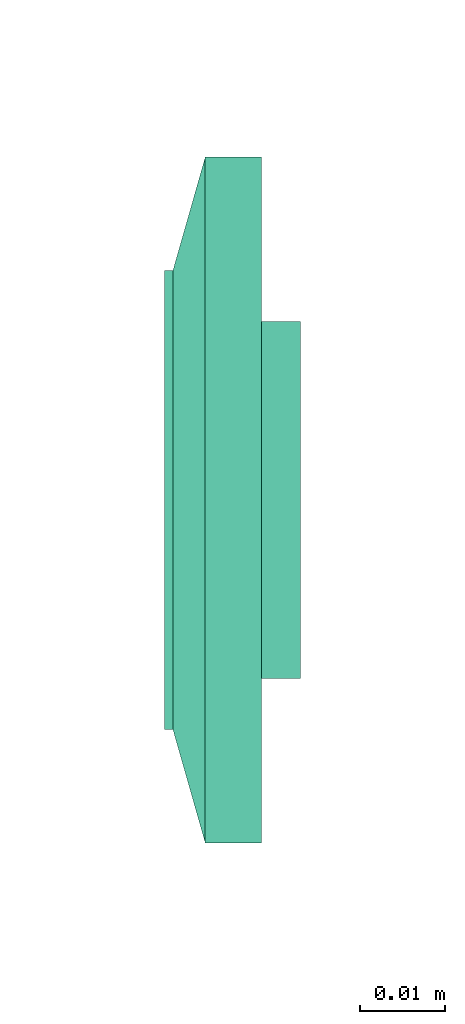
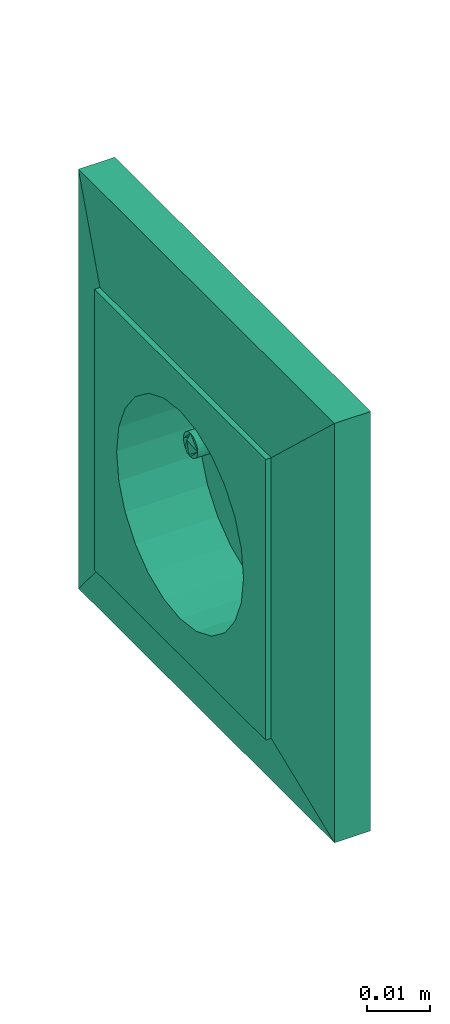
# One storey, part 143 of 153: 1 flow terminal.
"""IFC2X3 building model written with IfcOpenShell, lengths in metres."""

from ifc_helpers import new_model, entity, si_unit, converted_unit, derived_unit, direction, frame, origin, place, context, subcontext, project, spatial, face_set, surface_model, source, transform, mapped, type_object, type_shapes, element, save


model = new_model("IFC2X3")

# Units and contexts
model_context = context("Model", 3, precision=1e-05, world=origin(), true_north=direction((6.12303176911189e-17, 1.0)))
body_context = subcontext(model_context, "Body", "Model", "MODEL_VIEW")
ifc_project = project(units=[si_unit("LENGTHUNIT", "METRE"), si_unit("AREAUNIT", "SQUARE_METRE"), si_unit("VOLUMEUNIT", "CUBIC_METRE"), converted_unit("PLANEANGLEUNIT", "DEGREE", entity("IfcRatioMeasure", 0.0174532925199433), si_unit("PLANEANGLEUNIT", "RADIAN"), dimensions=[0, 0, 0, 0, 0, 0, 0]), si_unit("MASSUNIT", "GRAM", prefix="KILO"), derived_unit("MASSDENSITYUNIT", [(si_unit("MASSUNIT", "GRAM", prefix="KILO"), 1), (si_unit("LENGTHUNIT", "METRE"), -3)]), si_unit("TIMEUNIT", "SECOND"), si_unit("FREQUENCYUNIT", "HERTZ"), si_unit("THERMODYNAMICTEMPERATUREUNIT", "DEGREE_CELSIUS"), derived_unit("THERMALTRANSMITTANCEUNIT", [(si_unit("MASSUNIT", "GRAM", prefix="KILO"), 1), (si_unit("THERMODYNAMICTEMPERATUREUNIT", "KELVIN"), -1), (si_unit("TIMEUNIT", "SECOND"), -3)]), derived_unit("VOLUMETRICFLOWRATEUNIT", [(si_unit("LENGTHUNIT", "METRE"), 3), (si_unit("TIMEUNIT", "SECOND"), -1)]), si_unit("ELECTRICCURRENTUNIT", "AMPERE"), si_unit("ELECTRICVOLTAGEUNIT", "VOLT"), si_unit("POWERUNIT", "WATT"), si_unit("FORCEUNIT", "NEWTON"), si_unit("ILLUMINANCEUNIT", "LUX"), si_unit("LUMINOUSFLUXUNIT", "LUMEN"), si_unit("LUMINOUSINTENSITYUNIT", "CANDELA"), derived_unit("USERDEFINED", [(si_unit("MASSUNIT", "GRAM", prefix="KILO"), -1), (si_unit("LENGTHUNIT", "METRE"), -2), (si_unit("TIMEUNIT", "SECOND"), 3), (si_unit("LUMINOUSFLUXUNIT", "LUMEN"), 1)]), derived_unit("LINEARVELOCITYUNIT", [(si_unit("LENGTHUNIT", "METRE"), 1), (si_unit("TIMEUNIT", "SECOND"), -1)]), si_unit("PRESSUREUNIT", "PASCAL"), derived_unit("USERDEFINED", [(si_unit("LENGTHUNIT", "METRE"), -2), (si_unit("MASSUNIT", "GRAM", prefix="KILO"), 1), (si_unit("TIMEUNIT", "SECOND"), -2)])], contexts=[model_context])

# Site, building, storey
site_placement = place(None, origin())
site = spatial("IfcSite", under=ifc_project, at=site_placement, Name="Default", CompositionType="ELEMENT")
building_placement = place(site_placement, origin())
building = spatial("IfcBuilding", under=site, at=building_placement, CompositionType="ELEMENT")
storey_placement = place(building_placement, frame((0.0, 0.0, -4.62)))
storey = spatial("IfcBuildingStorey", under=building, at=storey_placement, Name="S02", CompositionType="ELEMENT", Elevation=-4.62)

# Flow terminal
light_fixture_type = type_object("IfcLightFixtureType", Name="PC IP44", PredefinedType="NOTDEFINED")
shared_shape = source(origin(), body_context, "Body", "SurfaceModel", [
    surface_model("IfcFaceBasedSurfaceModel", [(-0.00225000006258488, 0.0127499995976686, 0.00949633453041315), (0.0, 0.0104999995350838, 0.00949633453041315), (0.0, 0.0115376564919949, 0.0101656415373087), (0.0, 0.0139623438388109, 0.0101656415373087), (0.0, 0.0144589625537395, 0.00984531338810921), (0.0, 0.0121178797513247, 0.0102778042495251), (0.0, 0.0133821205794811, 0.0102778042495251), (0.0, 0.0127499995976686, 0.010399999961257), (0.0, 0.0149999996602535, 0.00949633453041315), (0.00225000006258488, 0.0127499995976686, 0.00949633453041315), (0.0, 0.0110410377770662, 0.00984531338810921), (0.0, 0.0127499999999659, 0.00949633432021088), (0.00225000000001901, 0.0127499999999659, 0.00949633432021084), (0.00217333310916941, 0.0121676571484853, 0.00949633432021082), (0.00194855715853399, 0.0116249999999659, 0.00949633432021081), (0.00159099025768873, 0.0111590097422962, 0.00949633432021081), (0.001125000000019, 0.010801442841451, 0.00949633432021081), (0.00058234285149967, 0.0105766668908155, 0.00949633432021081), (0.0, 0.0104999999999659, 0.00949633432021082), (-0.000582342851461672, 0.0105766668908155, 0.00949633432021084), (-0.001124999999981, 0.010801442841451, 0.00949633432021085), (-0.00159099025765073, 0.0111590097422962, 0.00949633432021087), (-0.00194855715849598, 0.011624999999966, 0.00949633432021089), (-0.0021733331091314, 0.0121676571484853, 0.00949633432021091), (-0.00224999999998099, 0.012749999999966, 0.00949633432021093), (-0.00217333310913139, 0.0133323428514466, 0.00949633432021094), (-0.00194855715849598, 0.013874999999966, 0.00949633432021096), (-0.00159099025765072, 0.0143409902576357, 0.00949633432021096), (-0.00112499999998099, 0.0146985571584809, 0.00949633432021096), (-0.00058234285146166, 0.0149233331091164, 0.00949633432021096), (0.0, 0.0149999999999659, 0.00949633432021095), (0.000582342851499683, 0.0149233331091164, 0.00949633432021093), (0.00112500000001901, 0.0146985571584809, 0.00949633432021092), (0.00159099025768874, 0.0143409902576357, 0.00949633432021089), (0.001948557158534, 0.0138749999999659, 0.00949633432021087), (0.00217333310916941, 0.0133323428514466, 0.00949633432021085), (0.00225000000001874, 0.0127499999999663, -0.00360000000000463), (0.00217333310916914, 0.0121676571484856, -0.00360000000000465), (0.00194855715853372, 0.0116249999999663, -0.00360000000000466), (0.00159099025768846, 0.0111590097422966, -0.00360000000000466), (0.00112500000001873, 0.0108014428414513, -0.00360000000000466), (0.000582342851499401, 0.0105766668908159, -0.00360000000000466), (0.0, 0.0104999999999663, -0.00360000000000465), (-0.000582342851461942, 0.0105766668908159, -0.00360000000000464), (-0.00112499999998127, 0.0108014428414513, -0.00360000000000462), (-0.001590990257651, 0.0111590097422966, -0.0036000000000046), (-0.00194855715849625, 0.0116249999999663, -0.00360000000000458), (-0.00217333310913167, 0.0121676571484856, -0.00360000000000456), (-0.00224999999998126, 0.0127499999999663, -0.00360000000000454), (-0.00217333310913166, 0.013332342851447, -0.00360000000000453), (-0.00194855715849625, 0.0138749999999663, -0.00360000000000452), (-0.00159099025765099, 0.014340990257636, -0.00360000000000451), (-0.00112499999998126, 0.0146985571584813, -0.00360000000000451), (-0.000582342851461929, 0.0149233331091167, -0.00360000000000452), (0.0, 0.0149999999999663, -0.00360000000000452), (0.000582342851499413, 0.0149233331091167, -0.00360000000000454), (0.00112500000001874, 0.0146985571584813, -0.00360000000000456), (0.00159099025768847, 0.014340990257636, -0.00360000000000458), (0.00194855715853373, 0.0138749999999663, -0.0036000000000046), (0.00217333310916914, 0.013332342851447, -0.00360000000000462), (0.0270000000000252, 0.026999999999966, 0.0113999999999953), (-0.0269999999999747, 0.026999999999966, 0.0113999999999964), (-0.0269999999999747, -0.0270000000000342, 0.0113999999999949), (0.0270000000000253, -0.0270000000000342, 0.0113999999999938), (-0.0199999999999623, 0.0, 0.0113999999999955), (-0.0193185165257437, -0.00517638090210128, 0.0113999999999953), (-0.0173205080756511, -0.0100000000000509, 0.0113999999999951), (-0.0141421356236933, -0.0141421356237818, 0.011399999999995), (-0.00999999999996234, -0.0173205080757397, 0.0113999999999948), (-0.00517638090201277, -0.0193185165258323, 0.0113999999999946), (0.0, -0.0200000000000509, 0.0113999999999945), (0.00517638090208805, -0.0193185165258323, 0.0113999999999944), (0.0100000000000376, -0.0173205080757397, 0.0113999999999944), (0.0141421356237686, -0.0141421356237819, 0.0113999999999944), (0.0173205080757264, -0.010000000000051, 0.0113999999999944), (0.0193185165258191, -0.00517638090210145, 0.0113999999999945), (0.0200000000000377, 0.0, 0.0113999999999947), (0.0193185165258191, 0.00517638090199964, 0.0113999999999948), (0.0173205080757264, 0.0099999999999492, 0.011399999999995), (0.0141421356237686, 0.0141421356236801, 0.0113999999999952), (0.0100000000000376, 0.0173205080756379, 0.0113999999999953), (0.00517638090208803, 0.0193185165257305, 0.0113999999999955), (0.0, 0.0199999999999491, 0.0113999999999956), (-0.00517638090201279, 0.0193185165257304, 0.0113999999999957), (-0.00999999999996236, 0.0173205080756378, 0.0113999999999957), (-0.0141421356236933, 0.01414213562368, 0.0113999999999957), (-0.0173205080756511, 0.00999999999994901, 0.0113999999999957), (-0.0193185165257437, 0.00517638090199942, 0.0113999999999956), (0.0270000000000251, 0.0269999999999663, 0.00199999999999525), (0.0270000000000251, -0.0270000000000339, 0.00199999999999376), (-0.0269999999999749, -0.0270000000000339, 0.00199999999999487), (-0.0269999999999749, 0.0269999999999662, 0.00199999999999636), (0.0210000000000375, 0.0, 0.00199999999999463), (0.0202844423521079, -0.00543519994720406, 0.00199999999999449), (0.0181865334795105, -0.0105000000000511, 0.0019999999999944), (0.0148492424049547, -0.0148492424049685, 0.00199999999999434), (0.0105000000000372, -0.0181865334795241, 0.00199999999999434), (0.0054351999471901, -0.0202844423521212, 0.00199999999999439), (0.0, -0.0210000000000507, 0.00199999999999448), (-0.00543519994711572, -0.020284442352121, 0.00199999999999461), (-0.0104999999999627, -0.0181865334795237, 0.00199999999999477), (-0.0148492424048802, -0.014849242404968, 0.00199999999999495), (-0.0181865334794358, -0.0105000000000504, 0.00199999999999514), (-0.020284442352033, -0.00543519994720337, 0.00199999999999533), (-0.0209999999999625, 0.0, 0.00199999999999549), (-0.0202844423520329, 0.0054351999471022, 0.00199999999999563), (-0.0181865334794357, 0.0104999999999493, 0.00199999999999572), (-0.01484924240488, 0.0148492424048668, 0.00199999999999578), (-0.0104999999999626, 0.0181865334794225, 0.00199999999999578), (-0.00543519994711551, 0.0202844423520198, 0.00199999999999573), (0.0, 0.0209999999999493, 0.00199999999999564), (0.00543519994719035, 0.0202844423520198, 0.00199999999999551), (0.0105000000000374, 0.0181865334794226, 0.00199999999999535), (0.0148492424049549, 0.0148492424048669, 0.00199999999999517), (0.0181865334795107, 0.0104999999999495, 0.00199999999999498), (0.0202844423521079, 0.00543519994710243, 0.00199999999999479), (0.0200000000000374, 0.0, -0.00360000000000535), (0.0193185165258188, -0.00517638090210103, -0.00360000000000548), (0.0173205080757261, -0.0100000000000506, -0.00360000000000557), (0.0141421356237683, -0.0141421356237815, -0.00360000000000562), (0.0100000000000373, -0.0173205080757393, -0.00360000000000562), (0.00517638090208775, -0.0193185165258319, -0.00360000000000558), (0.0, -0.0200000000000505, -0.00360000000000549), (-0.00517638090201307, -0.0193185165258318, -0.00360000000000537), (-0.00999999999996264, -0.0173205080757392, -0.00360000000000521), (-0.0141421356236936, -0.0141421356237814, -0.00360000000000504), (-0.0173205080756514, -0.0100000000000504, -0.00360000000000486), (-0.019318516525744, -0.00517638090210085, -0.00360000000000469), (-0.0199999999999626, 0.0, -0.00360000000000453), (-0.0193185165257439, 0.00517638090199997, -0.0036000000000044), (-0.0173205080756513, 0.00999999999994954, -0.00360000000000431), (-0.0141421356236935, 0.0141421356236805, -0.00360000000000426), (-0.00999999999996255, 0.0173205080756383, -0.00360000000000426), (-0.00517638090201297, 0.0193185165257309, -0.0036000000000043), (0.0, 0.0199999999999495, -0.00360000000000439), (0.00517638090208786, 0.0193185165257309, -0.00360000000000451), (0.0100000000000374, 0.0173205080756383, -0.00360000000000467), (0.0141421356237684, 0.0141421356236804, -0.00360000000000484), (0.0173205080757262, 0.0099999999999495, -0.00360000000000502), (0.0193185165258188, 0.00517638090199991, -0.00360000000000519), (-0.0123499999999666, 0.0, -0.00360000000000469), (-0.0122562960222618, -0.000711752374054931, -0.00360000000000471), (-0.0119815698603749, -0.00137500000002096, -0.00360000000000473), (-0.0115445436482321, -0.00194454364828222, -0.00360000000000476), (-0.0109749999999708, -0.00238156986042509, -0.00360000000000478), (-0.0103117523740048, -0.00265629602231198, -0.0036000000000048), (-0.00959999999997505, -0.00275000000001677, -0.00360000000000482), (-0.0088882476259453, -0.00265629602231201, -0.00360000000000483), (-0.00822499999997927, -0.00238156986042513, -0.00360000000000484), (-0.00765545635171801, -0.00194454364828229, -0.00360000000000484), (-0.00721843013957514, -0.00137500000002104, -0.00360000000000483), (-0.00694370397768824, -0.000711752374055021, -0.00360000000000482), (-0.00684999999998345, 0.0, -0.0036000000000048), (-0.00694370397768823, 0.000711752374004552, -0.00360000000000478), (-0.00721843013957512, 0.00137499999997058, -0.00360000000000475), (-0.00765545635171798, 0.00194454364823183, -0.00360000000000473), (-0.00822499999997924, 0.00238156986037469, -0.0036000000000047), (-0.00888824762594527, 0.00265629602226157, -0.00360000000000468), (-0.00959999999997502, 0.00274999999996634, -0.00360000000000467), (-0.0103117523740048, 0.00265629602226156, -0.00360000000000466), (-0.0109749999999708, 0.00238156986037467, -0.00360000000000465), (-0.011544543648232, 0.00194454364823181, -0.00360000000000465), (-0.0119815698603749, 0.00137499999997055, -0.00360000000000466), (-0.0122562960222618, 0.000711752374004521, -0.00360000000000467), (0.00685000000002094, 0.0, -0.00360000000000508), (0.0069437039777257, -0.00071175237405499, -0.0036000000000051), (0.00721843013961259, -0.00137500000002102, -0.00360000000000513), (0.00765545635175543, -0.00194454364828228, -0.00360000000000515), (0.00822500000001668, -0.00238156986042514, -0.00360000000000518), (0.00888824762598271, -0.00265629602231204, -0.0036000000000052), (0.00960000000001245, -0.00275000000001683, -0.00360000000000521), (0.0103117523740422, -0.00265629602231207, -0.00360000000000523), (0.0109750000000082, -0.00238156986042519, -0.00360000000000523), (0.0115445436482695, -0.00194454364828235, -0.00360000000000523), (0.0119815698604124, -0.0013750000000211, -0.00360000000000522), (0.0122562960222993, -0.00071175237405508, -0.00360000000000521), (0.012350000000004, 0.0, -0.00360000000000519), (0.0122562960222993, 0.000711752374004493, -0.00360000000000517), (0.0119815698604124, 0.00137499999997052, -0.00360000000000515), (0.0115445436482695, 0.00194454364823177, -0.00360000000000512), (0.0109750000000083, 0.00238156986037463, -0.0036000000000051), (0.0103117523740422, 0.00265629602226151, -0.00360000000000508), (0.00960000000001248, 0.00274999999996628, -0.00360000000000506), (0.00888824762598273, 0.0026562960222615, -0.00360000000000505), (0.0082250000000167, 0.00238156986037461, -0.00360000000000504), (0.00765545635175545, 0.00194454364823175, -0.00360000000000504), (0.0072184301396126, 0.00137499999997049, -0.00360000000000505), (0.00694370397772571, 0.000711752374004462, -0.00360000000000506), (0.0210000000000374, 0.0, -0.00460000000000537), (0.0202844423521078, -0.00543519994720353, -0.00460000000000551), (0.0181865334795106, -0.0105000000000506, -0.0046000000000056), (0.0148492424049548, -0.0148492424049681, -0.00460000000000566), (0.0105000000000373, -0.0181865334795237, -0.00460000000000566), (0.00543519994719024, -0.0202844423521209, -0.00460000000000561), (0.0, -0.0210000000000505, -0.00460000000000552), (-0.00543519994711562, -0.0202844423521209, -0.00460000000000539), (-0.0104999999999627, -0.0181865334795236, -0.00460000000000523), (-0.0148492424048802, -0.0148492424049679, -0.00460000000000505), (-0.0181865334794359, -0.0105000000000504, -0.00460000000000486), (-0.0202844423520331, -0.00543519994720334, -0.00460000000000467), (-0.0209999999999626, 0.0, -0.00460000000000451), (-0.020284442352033, 0.00543519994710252, -0.00460000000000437), (-0.0181865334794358, 0.0104999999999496, -0.00460000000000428), (-0.0148492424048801, 0.0148492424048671, -0.00460000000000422), (-0.0104999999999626, 0.0181865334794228, -0.00460000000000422), (-0.00543519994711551, 0.02028444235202, -0.00460000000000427), (0.0, 0.0209999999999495, -0.00460000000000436), (0.00543519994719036, 0.02028444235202, -0.00460000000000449), (0.0105000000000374, 0.0181865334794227, -0.00460000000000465), (0.0148492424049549, 0.014849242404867, -0.00460000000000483), (0.0181865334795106, 0.0104999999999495, -0.00460000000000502), (0.0202844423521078, 0.00543519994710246, -0.00460000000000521), (-0.00684999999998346, 0.0, -0.0046000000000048), (-0.00694370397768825, 0.000711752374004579, -0.00460000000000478), (-0.00721843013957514, 0.00137499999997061, -0.00460000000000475), (-0.007655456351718, 0.00194454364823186, -0.00460000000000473), (-0.00822499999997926, 0.00238156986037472, -0.0046000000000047), (-0.00888824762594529, 0.0026562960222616, -0.00460000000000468), (-0.00959999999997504, 0.00274999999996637, -0.00460000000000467), (-0.0103117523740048, 0.00265629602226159, -0.00460000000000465), (-0.0109749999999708, 0.0023815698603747, -0.00460000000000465), (-0.0115445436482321, 0.00194454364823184, -0.00460000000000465), (-0.0119815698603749, 0.00137499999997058, -0.00460000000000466), (-0.0122562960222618, 0.000711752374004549, -0.00460000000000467), (-0.0123499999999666, 0.0, -0.00460000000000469), (-0.0122562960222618, -0.000711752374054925, -0.00460000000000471), (-0.0119815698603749, -0.00137500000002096, -0.00460000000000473), (-0.0115445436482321, -0.00194454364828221, -0.00460000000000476), (-0.0109749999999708, -0.00238156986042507, -0.00460000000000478), (-0.0103117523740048, -0.00265629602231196, -0.0046000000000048), (-0.00959999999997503, -0.00275000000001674, -0.00460000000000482), (-0.00888824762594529, -0.00265629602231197, -0.00460000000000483), (-0.00822499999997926, -0.00238156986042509, -0.00460000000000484), (-0.007655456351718, -0.00194454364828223, -0.00460000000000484), (-0.00721843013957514, -0.00137500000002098, -0.00460000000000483), (-0.00694370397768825, -0.000711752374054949, -0.00460000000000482), (0.012350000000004, 0.0, -0.00460000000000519), (0.0122562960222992, 0.000711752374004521, -0.00460000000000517), (0.0119815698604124, 0.00137499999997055, -0.00460000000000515), (0.0115445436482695, 0.0019445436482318, -0.00460000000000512), (0.0109750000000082, 0.00238156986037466, -0.0046000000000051), (0.0103117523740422, 0.00265629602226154, -0.00460000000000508), (0.00960000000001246, 0.00274999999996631, -0.00460000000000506), (0.00888824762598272, 0.00265629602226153, -0.00460000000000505), (0.00822500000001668, 0.00238156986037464, -0.00460000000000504), (0.00765545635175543, 0.00194454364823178, -0.00460000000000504), (0.00721843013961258, 0.00137499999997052, -0.00460000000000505), (0.00694370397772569, 0.00071175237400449, -0.00460000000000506), (0.00685000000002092, 0.0, -0.00460000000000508), (0.00694370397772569, -0.000711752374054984, -0.0046000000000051), (0.00721843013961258, -0.00137500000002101, -0.00460000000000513), (0.00765545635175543, -0.00194454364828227, -0.00460000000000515), (0.00822500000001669, -0.00238156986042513, -0.00460000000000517), (0.00888824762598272, -0.00265629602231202, -0.0046000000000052), (0.00960000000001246, -0.0027500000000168, -0.00460000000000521), (0.0103117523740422, -0.00265629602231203, -0.00460000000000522), (0.0109750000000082, -0.00238156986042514, -0.00460000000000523), (0.0115445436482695, -0.00194454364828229, -0.00460000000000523), (0.0119815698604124, -0.00137500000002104, -0.00460000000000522), (0.0122562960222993, -0.000711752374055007, -0.00460000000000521), (0.040350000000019, 0.0403499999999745, 0.00659999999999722), (0.040350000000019, -0.0403500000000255, 0.00659999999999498), (-0.0403499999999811, -0.0403500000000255, 0.00659999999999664), (-0.0403499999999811, 0.0403499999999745, 0.00659999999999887), (0.027000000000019, 0.0269999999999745, 0.00659999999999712), (-0.0269999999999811, 0.0269999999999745, 0.00659999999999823), (-0.026999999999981, -0.0270000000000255, 0.00659999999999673), (0.027000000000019, -0.0270000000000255, 0.00659999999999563), (0.027000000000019, 0.0269999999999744, 0.0103999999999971), (-0.026999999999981, 0.0269999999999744, 0.0103999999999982), (-0.026999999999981, -0.0270000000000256, 0.0103999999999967), (0.027000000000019, -0.0270000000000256, 0.0103999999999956), (0.040350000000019, 0.0403499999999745, 0.00659999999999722), (0.040350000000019, -0.0403500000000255, 0.00659999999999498), (-0.0403499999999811, -0.0403500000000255, 0.00659999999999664), (-0.0403499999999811, 0.0403499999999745, 0.00659999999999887), (-0.0269999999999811, 0.0269999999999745, 0.00659999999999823), (-0.0269999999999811, -0.0270000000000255, 0.00659999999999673), (0.0270000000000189, -0.0270000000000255, 0.00659999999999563), (0.0270000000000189, 0.0269999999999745, 0.00659999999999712), (0.0403500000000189, 0.0403499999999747, 0.0), (0.0403500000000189, -0.0403500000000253, 0.0), (-0.0403499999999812, -0.0403500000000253, 0.0), (-0.0403499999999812, 0.0403499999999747, 0.0), (0.0270000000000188, 0.0269999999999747, 0.0), (-0.0269999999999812, 0.0269999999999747, 0.0), (-0.0269999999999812, -0.0270000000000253, 0.0), (0.0270000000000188, -0.0270000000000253, 0.0)], [face_set([[[0, 1, 2]], [[3, 4, 2, 5]], [[6, 3, 5, 7]], [[2, 4, 0]], [[4, 8, 0]], [[3, 9, 8]], [[1, 9, 10]], [[2, 3, 6, 7]], [[3, 10, 9]], [[2, 10, 3]], [[11, 1, 0, 8]], [[11, 8, 9, 1]]]), face_set([[[12, 13, 14, 15, 16, 17, 18, 19, 20, 21, 22, 23, 24, 25, 26, 27, 28, 29, 30, 31, 32, 33, 34, 35]], [[36, 37, 38, 39, 40, 41, 42, 43, 44, 45, 46, 47, 48, 49, 50, 51, 52, 53, 54, 55, 56, 57, 58, 59]], [[48, 47, 23, 24]], [[47, 46, 22, 23]], [[45, 44, 20, 21]], [[46, 45, 21, 22]], [[44, 43, 19, 20]], [[18, 19, 43, 42]], [[42, 41, 17, 18]], [[41, 40, 16, 17]], [[39, 38, 14, 15]], [[40, 39, 15, 16]], [[38, 37, 13, 14]], [[12, 13, 37, 36]], [[36, 59, 35, 12]], [[59, 58, 34, 35]], [[57, 56, 32, 33]], [[58, 57, 33, 34]], [[56, 55, 31, 32]], [[30, 31, 55, 54]], [[54, 53, 29, 30]], [[53, 52, 28, 29]], [[51, 50, 26, 27]], [[52, 51, 27, 28]], [[50, 49, 25, 26]], [[24, 25, 49, 48]]]), face_set([[[60, 61, 62, 63], [64, 65, 66, 67, 68, 69, 70, 71, 72, 73, 74, 75, 76, 77, 78, 79, 80, 81, 82, 83, 84, 85, 86, 87]], [[88, 89, 90, 91], [92, 93, 94, 95, 96, 97, 98, 99, 100, 101, 102, 103, 104, 105, 106, 107, 108, 109, 110, 111, 112, 113, 114, 115]], [[61, 60, 88, 91]], [[62, 61, 91, 90]], [[63, 62, 90, 89]], [[60, 63, 89, 88]], [[116, 117, 118, 119, 120, 121, 122, 123, 124, 125, 126, 127, 128, 129, 130, 131, 132, 133, 134, 135, 136, 137, 138, 139], [140, 141, 142, 143, 144, 145, 146, 147, 148, 149, 150, 151, 152, 153, 154, 155, 156, 157, 158, 159, 160, 161, 162, 163], [164, 165, 166, 167, 168, 169, 170, 171, 172, 173, 174, 175, 176, 177, 178, 179, 180, 181, 182, 183, 184, 185, 186, 187]], [[64, 128, 127, 65]], [[65, 127, 126, 66]], [[67, 125, 124, 68]], [[66, 126, 125, 67]], [[68, 124, 123, 69]], [[122, 70, 69, 123]], [[70, 122, 121, 71]], [[71, 121, 120, 72]], [[73, 119, 118, 74]], [[72, 120, 119, 73]], [[74, 118, 117, 75]], [[116, 76, 75, 117]], [[76, 116, 139, 77]], [[77, 139, 138, 78]], [[79, 137, 136, 80]], [[78, 138, 137, 79]], [[80, 136, 135, 81]], [[134, 82, 81, 135]], [[82, 134, 133, 83]], [[83, 133, 132, 84]], [[84, 132, 131, 85]], [[85, 131, 130, 86]], [[130, 129, 87, 86]], [[64, 87, 129, 128]], [[188, 189, 190, 191, 192, 193, 194, 195, 196, 197, 198, 199, 200, 201, 202, 203, 204, 205, 206, 207, 208, 209, 210, 211], [212, 213, 214, 215, 216, 217, 218, 219, 220, 221, 222, 223, 224, 225, 226, 227, 228, 229, 230, 231, 232, 233, 234, 235], [236, 237, 238, 239, 240, 241, 242, 243, 244, 245, 246, 247, 248, 249, 250, 251, 252, 253, 254, 255, 256, 257, 258, 259]], [[200, 199, 103, 104]], [[199, 198, 102, 103]], [[197, 196, 100, 101]], [[198, 197, 101, 102]], [[196, 195, 99, 100]], [[98, 99, 195, 194]], [[194, 193, 97, 98]], [[193, 192, 96, 97]], [[191, 190, 94, 95]], [[192, 191, 95, 96]], [[190, 189, 93, 94]], [[92, 93, 189, 188]], [[188, 211, 115, 92]], [[211, 210, 114, 115]], [[209, 208, 112, 113]], [[210, 209, 113, 114]], [[208, 207, 111, 112]], [[110, 111, 207, 206]], [[206, 205, 109, 110]], [[205, 204, 108, 109]], [[203, 202, 106, 107]], [[204, 203, 107, 108]], [[202, 201, 105, 106]], [[104, 105, 201, 200]], [[141, 225, 226, 142]], [[140, 224, 225, 141]], [[144, 228, 229, 145]], [[143, 227, 228, 144]], [[142, 226, 227, 143]], [[230, 146, 145, 229]], [[149, 233, 232, 148]], [[148, 232, 231, 147]], [[152, 212, 235, 151]], [[151, 235, 234, 150]], [[150, 234, 233, 149]], [[146, 230, 231, 147]], [[154, 214, 213, 153]], [[153, 213, 212, 152]], [[157, 217, 216, 156]], [[156, 216, 215, 155]], [[155, 215, 214, 154]], [[218, 158, 157, 217]], [[160, 220, 221, 161]], [[159, 219, 220, 160]], [[163, 223, 224, 140]], [[162, 222, 223, 163]], [[161, 221, 222, 162]], [[158, 218, 219, 159]], [[166, 250, 249, 165]], [[165, 249, 248, 164]], [[169, 253, 252, 168]], [[168, 252, 251, 167]], [[167, 251, 250, 166]], [[254, 170, 169, 253]], [[172, 256, 257, 173]], [[171, 255, 256, 172]], [[175, 259, 236, 176]], [[174, 258, 259, 175]], [[173, 257, 258, 174]], [[170, 254, 255, 171]], [[177, 237, 238, 178]], [[176, 236, 237, 177]], [[180, 240, 241, 181]], [[179, 239, 240, 180]], [[178, 238, 239, 179]], [[242, 182, 181, 241]], [[185, 245, 244, 184]], [[184, 244, 243, 183]], [[164, 248, 247, 187]], [[187, 247, 246, 186]], [[186, 246, 245, 185]], [[182, 242, 243, 183]]]), face_set([[[260, 261, 262, 263], [264, 265, 266, 267]], [[260, 268, 269, 263]], [[263, 269, 270, 262]], [[262, 270, 271, 261]], [[261, 271, 268, 260]], [[264, 265, 269, 268]], [[265, 266, 270, 269]], [[266, 267, 271, 270]], [[268, 271, 267, 264]]]), face_set([[[272, 273, 274, 275], [276, 277, 278, 279]], [[280, 281, 282, 283], [284, 285, 286, 287]], [[275, 272, 280, 283]], [[274, 275, 283, 282]], [[273, 274, 282, 281]], [[272, 273, 281, 280]], [[284, 285, 276, 279]], [[285, 286, 277, 276]], [[286, 287, 278, 277]], [[279, 278, 287, 284]]])]),
])
type_shapes(light_fixture_type, [shared_shape])
flow_terminal_placement = place(storey_placement, frame((65.3897436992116, -185.975488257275, 0.130000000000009), z_axis=(-1.0, 0.0, 0.0), x_axis=(0.0, -1.0, 0.0)))
element("IfcFlowTerminal", 1, at=flow_terminal_placement, inside=storey, type_object=light_fixture_type, Name="INT Prise de courant:PC IP44", ObjectType="INT Prise de courant:PC IP44", context=body_context, shape_type="MappedRepresentation", body=[
    mapped(shared_shape, transform((0.0, 0.0, 0.0), scale=1.0)),
])

save(model, "model.ifc")
